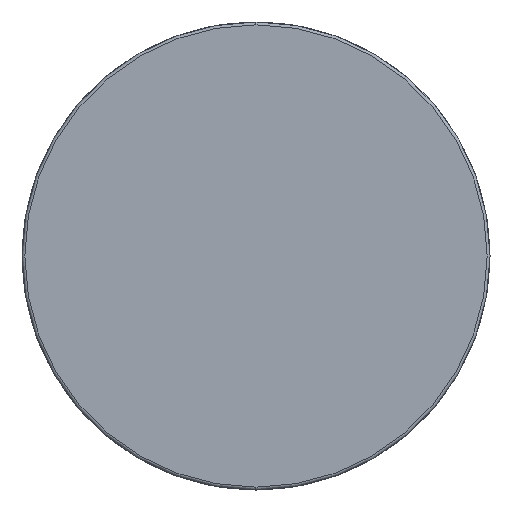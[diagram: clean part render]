
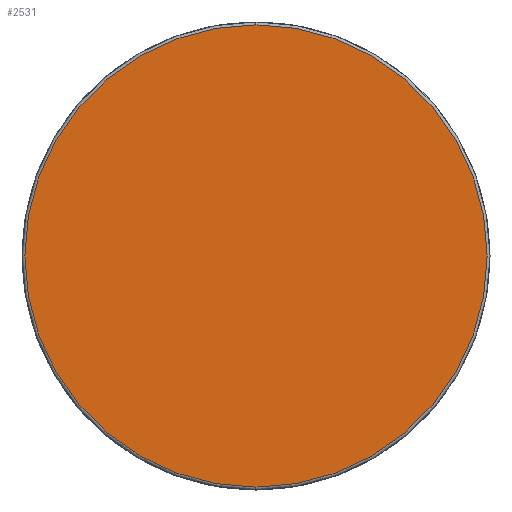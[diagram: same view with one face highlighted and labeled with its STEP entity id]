
A CAD part, front view. The second image highlights one B-rep face of the part: STEP entity #2531.
In plain terms, the highlighted planar face has unit normal (0, -1, 0) as drawn and (-1, 0, 0) by its records, which use the part's own axes.
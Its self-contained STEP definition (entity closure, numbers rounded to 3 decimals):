
#88 = DIRECTION ( 'NONE',  ( 0., 0., -1. ) ) ;
#449 = DIRECTION ( 'NONE',  ( -1., 0., 0. ) ) ;
#606 = DIRECTION ( 'NONE',  ( 0., 0., -1. ) ) ;
#968 = DIRECTION ( 'NONE',  ( 1., 0., 0. ) ) ;
#1038 = PLANE ( 'NONE',  #1290 ) ;
#1184 = DIRECTION ( 'NONE',  ( -1., 0., 0. ) ) ;
#1290 = AXIS2_PLACEMENT_3D ( 'NONE', #3206, #968, #606 ) ;
#1514 = DIRECTION ( 'NONE',  ( 0., 0., -1. ) ) ;
#1682 = ORIENTED_EDGE ( 'NONE', *, *, #2299, .T. ) ;
#1930 = CARTESIAN_POINT ( 'NONE',  ( 0., 0., 0. ) ) ;
#1986 = CARTESIAN_POINT ( 'NONE',  ( 0., 0., 40.5 ) ) ;
#2299 = EDGE_CURVE ( 'NONE', #4457, #2745, #2902, .T. ) ;
#2319 = ORIENTED_EDGE ( 'NONE', *, *, #4443, .T. ) ;
#2390 = AXIS2_PLACEMENT_3D ( 'NONE', #4311, #449, #88 ) ;
#2531 = ADVANCED_FACE ( 'NONE', ( #4358 ), #1038, .F. ) ;
#2745 = VERTEX_POINT ( 'NONE', #1986 ) ;
#2902 = CIRCLE ( 'NONE', #3841, 40.5 ) ;
#3206 = CARTESIAN_POINT ( 'NONE',  ( 0., 0., 0. ) ) ;
#3841 = AXIS2_PLACEMENT_3D ( 'NONE', #1930, #1184, #1514 ) ;
#4039 = CARTESIAN_POINT ( 'NONE',  ( 0., 0., -40.5 ) ) ;
#4170 = EDGE_LOOP ( 'NONE', ( #1682, #2319 ) ) ;
#4252 = CIRCLE ( 'NONE', #2390, 40.5 ) ;
#4311 = CARTESIAN_POINT ( 'NONE',  ( 0., 0., 0. ) ) ;
#4358 = FACE_OUTER_BOUND ( 'NONE', #4170, .T. ) ;
#4443 = EDGE_CURVE ( 'NONE', #2745, #4457, #4252, .T. ) ;
#4457 = VERTEX_POINT ( 'NONE', #4039 ) ;
